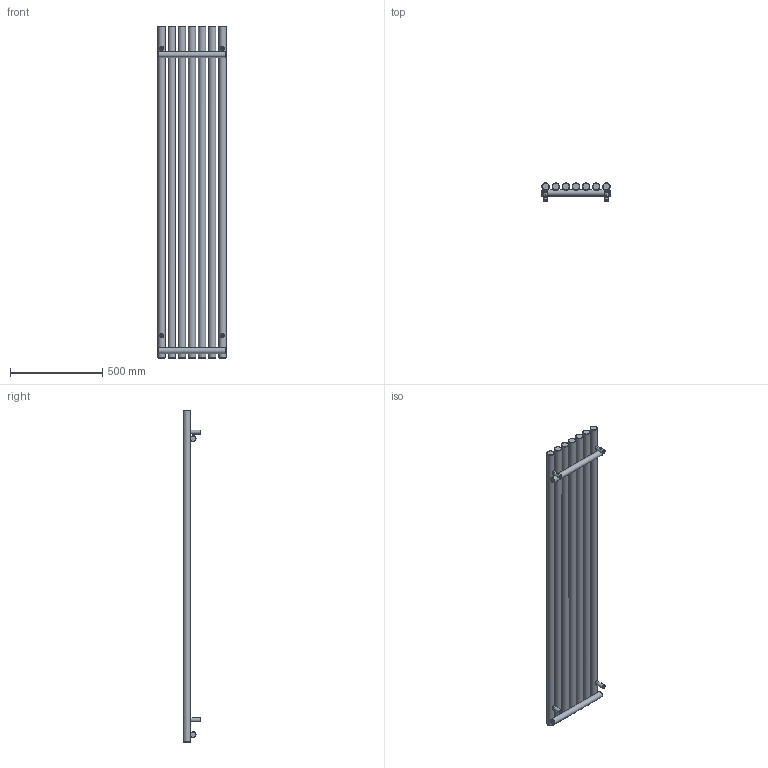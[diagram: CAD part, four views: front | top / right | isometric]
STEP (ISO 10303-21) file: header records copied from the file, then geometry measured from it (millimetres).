
FILE_DESCRIPTION(/* description */ (''),/* implementation_level */ '2;1');
FILE_NAME(/* name */ 'Z:\R\G\P\RGP116 - Grzejniki Geyser\Work\Inventor\Circolo (Rolo V, Rolo H)\ROLO-ROOM\Marketing\Bryły 3D\Zaokrąglone\WLROR180037-ES-CK-(Z).stp',/* time_stamp */ '2024-03-29T15:50:50+01:00',/* author */ ('NowAd'),/* organization */ (''),/* preprocessor_version */ 'ST-DEVELOPER v17.2',/* originating_system */ 'Autodesk Inventor 2019',/* authorisation */ '');
FILE_SCHEMA (('AUTOMOTIVE_DESIGN { 1 0 10303 214 3 1 1 }'));
Length unit declared in the file: millimetre
Products named in the file (3): WLROR180037-ES-CK-(Z); PGROR180037-ES-CK-(K); CK-V-fi40 marketing
Assembly tree (5 placements, depth 2):
  WLROR180037-ES-CK-(Z)
    PGROR180037-ES-CK-(K)
    CK-V-fi40 marketing  x4
Bounding box: 370 x 96.5 x 1800 mm (x, y, z)
Volume: 16469178.2 mm3; surface area: 1701352.3 mm2
Topology: 5 solids, 5 shells, 331 faces, 829 edges, 554 vertices
Faces by surface type: plane 136, cylinder 75, cone 60, torus 46, bspline 14
Full cylindrical faces by diameter (mm): 4.134 x4, 4.48 x4, 6.4 x4, 10 x4, 12 x4, 15.834 x4, 16 x4, 18.631 x2, 22 x4, 32 x2, 40 x7
Entity records: 7760 total; most frequent: CARTESIAN_POINT 4218, DIRECTION 738, ORIENTED_EDGE 696, EDGE_CURVE 348, AXIS2_PLACEMENT_3D 331, VERTEX_POINT 236, EDGE_LOOP 194, CIRCLE 181
